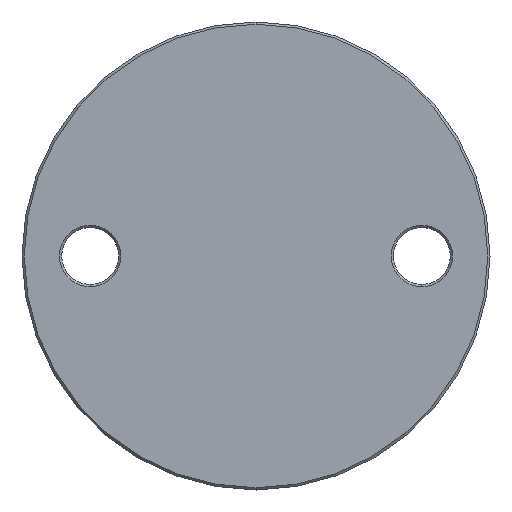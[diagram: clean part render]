
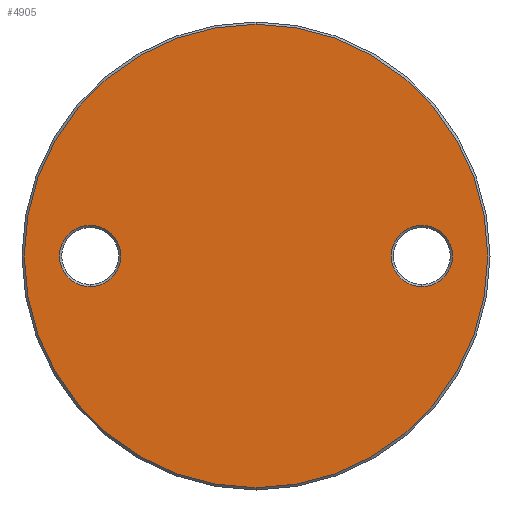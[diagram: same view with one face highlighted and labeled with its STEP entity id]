
A CAD part, front view. The second image highlights one B-rep face of the part: STEP entity #4905.
In plain terms, the highlighted planar face has unit normal (0, -1, 0).
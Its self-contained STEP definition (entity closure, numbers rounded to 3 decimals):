
#70 = EDGE_CURVE ( 'NONE', #769, #3319, #7379, .T. ) ;
#240 = CARTESIAN_POINT ( 'NONE',  ( -36.5, -3., 0. ) ) ;
#266 = EDGE_LOOP ( 'NONE', ( #6392, #3276 ) ) ;
#455 = CARTESIAN_POINT ( 'NONE',  ( -36.5, -3., 6.75 ) ) ;
#476 = EDGE_CURVE ( 'NONE', #4127, #1666, #5307, .T. ) ;
#501 = CARTESIAN_POINT ( 'NONE',  ( -36.5, -3., 0. ) ) ;
#513 = DIRECTION ( 'NONE',  ( 0., 0., -1. ) ) ;
#769 = VERTEX_POINT ( 'NONE', #455 ) ;
#980 = CARTESIAN_POINT ( 'NONE',  ( 36.5, -3., -6.75 ) ) ;
#1053 = CARTESIAN_POINT ( 'NONE',  ( 0., -3., 0. ) ) ;
#1134 = DIRECTION ( 'NONE',  ( 0., -1., 0. ) ) ;
#1202 = DIRECTION ( 'NONE',  ( 0., 1., 0. ) ) ;
#1247 = DIRECTION ( 'NONE',  ( 0., 0., -1. ) ) ;
#1586 = DIRECTION ( 'NONE',  ( 0., 1., 0. ) ) ;
#1645 = EDGE_LOOP ( 'NONE', ( #1867, #8079 ) ) ;
#1666 = VERTEX_POINT ( 'NONE', #2644 ) ;
#1784 = AXIS2_PLACEMENT_3D ( 'NONE', #4883, #5455, #3585 ) ;
#1826 = DIRECTION ( 'NONE',  ( 0., 0., -1. ) ) ;
#1867 = ORIENTED_EDGE ( 'NONE', *, *, #4572, .T. ) ;
#1897 = CARTESIAN_POINT ( 'NONE',  ( 0., -3., 51.5 ) ) ;
#2103 = DIRECTION ( 'NONE',  ( 0., 1., 0. ) ) ;
#2545 = DIRECTION ( 'NONE',  ( 0., 0., -1. ) ) ;
#2550 = CARTESIAN_POINT ( 'NONE',  ( -36.5, -3., -6.75 ) ) ;
#2577 = DIRECTION ( 'NONE',  ( 0., -1., 0. ) ) ;
#2644 = CARTESIAN_POINT ( 'NONE',  ( 36.5, -3., 6.75 ) ) ;
#2652 = CIRCLE ( 'NONE', #4461, 51. ) ;
#2846 = FACE_OUTER_BOUND ( 'NONE', #266, .T. ) ;
#2917 = EDGE_LOOP ( 'NONE', ( #8054, #3437 ) ) ;
#2958 = CIRCLE ( 'NONE', #8089, 6.75 ) ;
#3176 = AXIS2_PLACEMENT_3D ( 'NONE', #7947, #1586, #4190 ) ;
#3276 = ORIENTED_EDGE ( 'NONE', *, *, #3746, .T. ) ;
#3319 = VERTEX_POINT ( 'NONE', #2550 ) ;
#3437 = ORIENTED_EDGE ( 'NONE', *, *, #5977, .T. ) ;
#3585 = DIRECTION ( 'NONE',  ( 0., 0., -1. ) ) ;
#3746 = EDGE_CURVE ( 'NONE', #8043, #7712, #8035, .T. ) ;
#4127 = VERTEX_POINT ( 'NONE', #980 ) ;
#4190 = DIRECTION ( 'NONE',  ( 0., 0., -1. ) ) ;
#4461 = AXIS2_PLACEMENT_3D ( 'NONE', #1053, #1134, #513 ) ;
#4572 = EDGE_CURVE ( 'NONE', #3319, #769, #2958, .T. ) ;
#4742 = EDGE_CURVE ( 'NONE', #7712, #8043, #2652, .T. ) ;
#4852 = CARTESIAN_POINT ( 'NONE',  ( 0., -3., -51. ) ) ;
#4883 = CARTESIAN_POINT ( 'NONE',  ( 0., -3., 0. ) ) ;
#4905 = ADVANCED_FACE ( 'NONE', ( #5006, #6185, #2846 ), #5714, .T. ) ;
#5006 = FACE_BOUND ( 'NONE', #2917, .T. ) ;
#5303 = DIRECTION ( 'NONE',  ( 0., 0., -1. ) ) ;
#5307 = CIRCLE ( 'NONE', #3176, 6.75 ) ;
#5455 = DIRECTION ( 'NONE',  ( 0., -1., 0. ) ) ;
#5587 = CIRCLE ( 'NONE', #6653, 6.75 ) ;
#5616 = CARTESIAN_POINT ( 'NONE',  ( 36.5, -3., 0. ) ) ;
#5714 = PLANE ( 'NONE',  #7245 ) ;
#5819 = CARTESIAN_POINT ( 'NONE',  ( 0., -3., 51. ) ) ;
#5977 = EDGE_CURVE ( 'NONE', #1666, #4127, #5587, .T. ) ;
#6185 = FACE_BOUND ( 'NONE', #1645, .T. ) ;
#6392 = ORIENTED_EDGE ( 'NONE', *, *, #4742, .T. ) ;
#6653 = AXIS2_PLACEMENT_3D ( 'NONE', #5616, #1202, #1826 ) ;
#6847 = DIRECTION ( 'NONE',  ( 0., 1., 0. ) ) ;
#7245 = AXIS2_PLACEMENT_3D ( 'NONE', #1897, #2577, #2545 ) ;
#7317 = AXIS2_PLACEMENT_3D ( 'NONE', #501, #6847, #1247 ) ;
#7379 = CIRCLE ( 'NONE', #7317, 6.75 ) ;
#7712 = VERTEX_POINT ( 'NONE', #5819 ) ;
#7947 = CARTESIAN_POINT ( 'NONE',  ( 36.5, -3., 0. ) ) ;
#8035 = CIRCLE ( 'NONE', #1784, 51. ) ;
#8043 = VERTEX_POINT ( 'NONE', #4852 ) ;
#8054 = ORIENTED_EDGE ( 'NONE', *, *, #476, .T. ) ;
#8079 = ORIENTED_EDGE ( 'NONE', *, *, #70, .T. ) ;
#8089 = AXIS2_PLACEMENT_3D ( 'NONE', #240, #2103, #5303 ) ;
